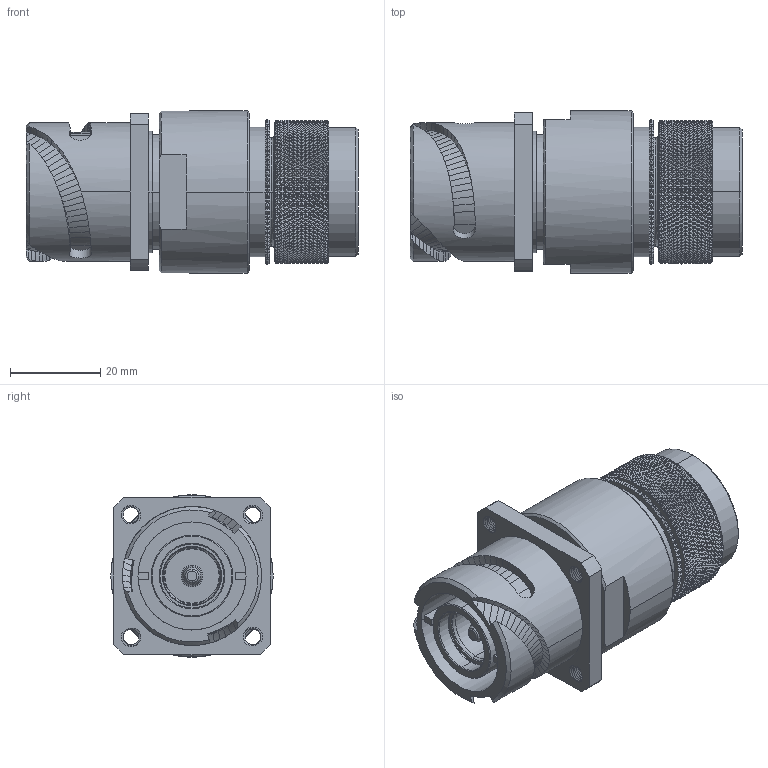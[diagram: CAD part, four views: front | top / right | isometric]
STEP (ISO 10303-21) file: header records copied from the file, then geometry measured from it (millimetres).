
FILE_DESCRIPTION((''),'2;1');
FILE_NAME('GCE3100E18M50P-B-T14_SW0001','2023-06-01T10:10:43',('paultorloting'),('NET AG system integration'),'CREO PARAMETRIC BY PTC INC, 2021404','CREO PARAMETRIC BY PTC INC, 2021404','');
FILE_SCHEMA(('AUTOMOTIVE_DESIGN { 1 0 10303 214 1 1 1 1 }'));
Products named in the file (1): GCE3100E18M50P-B-T14_SW0001
Bounding box: 73.6 x 36 x 36 mm (x, y, z)
Volume: 52094.6 mm3; surface area: 17396.5 mm2
Topology: 1 solids, 2 shells, 7440 faces, 13577 edges, 6170 vertices
Faces by surface type: bspline 5666, plane 1591, cylinder 128, cone 39, torus 16
Entity records: 269997 total; most frequent: CARTESIAN_POINT 158777, ORIENTED_EDGE 27154, EDGE_CURVE 13577, B_SPLINE_CURVE_WITH_KNOTS 9730, DIRECTION 7594, EDGE_LOOP 7479, FACE_OUTER_BOUND 7440, ADVANCED_FACE 7440
